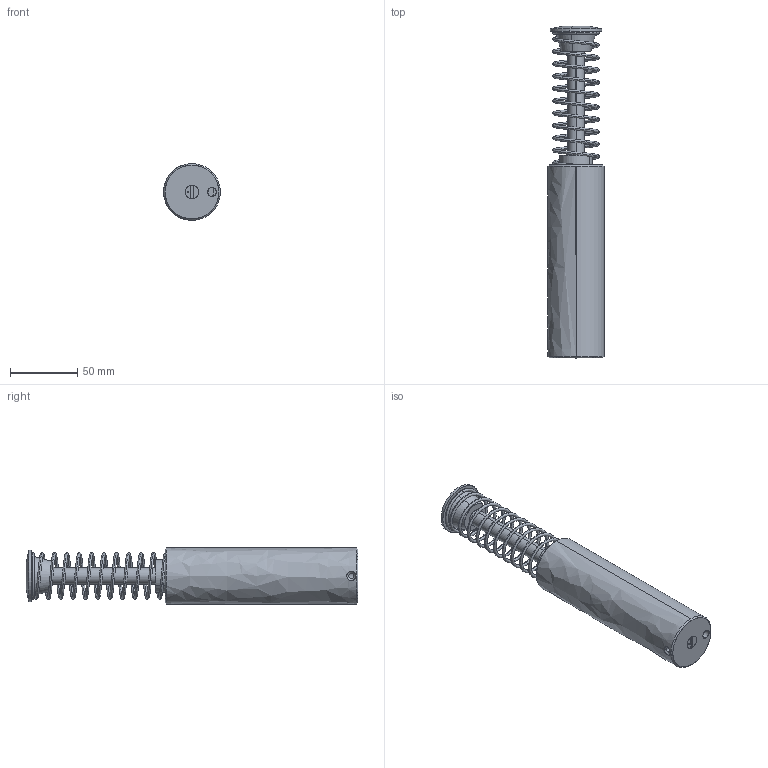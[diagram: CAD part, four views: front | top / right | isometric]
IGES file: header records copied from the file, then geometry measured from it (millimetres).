
Start section: SolidWorks IGES file using analytic representation for surfaces
Bounding box: 42 x 246 x 42 mm (x, y, z)
Surface area: 41747.4 mm2 (no closed solid volume)
Topology: 0 solids, 0 shells, 99 faces, 1711 edges, 1709 vertices
Faces by surface type: revolution 60, bspline 39
